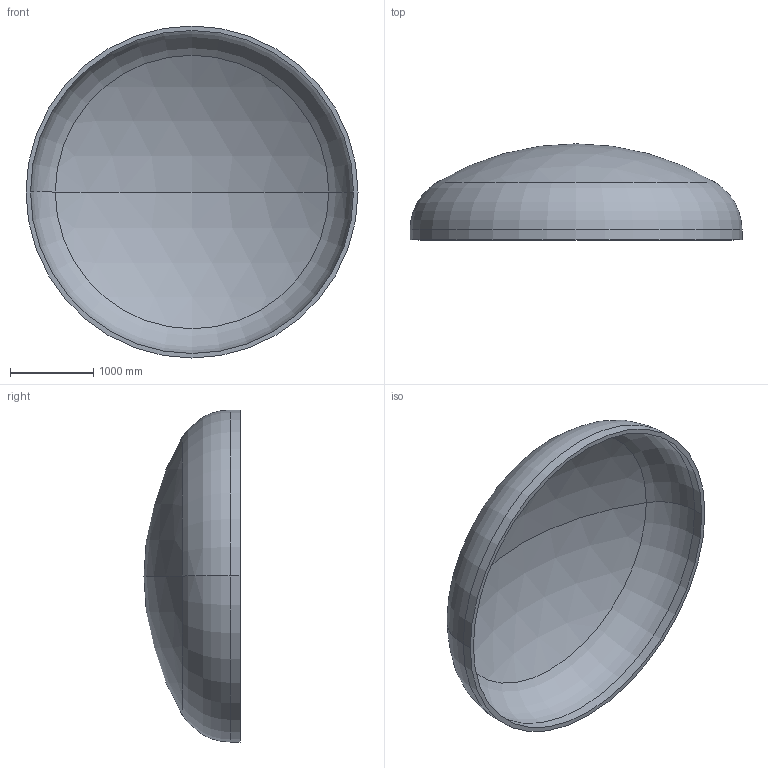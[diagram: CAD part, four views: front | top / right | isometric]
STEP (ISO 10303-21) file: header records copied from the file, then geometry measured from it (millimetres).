
FILE_DESCRIPTION (( 'STEP AP203' ), '1' );
FILE_NAME ('DIN 28013 Korbbogenform_-_Boden DIN 28013 - 4000 x 120 - I - s=54.step', '2016-07-01T22:31:23', ( '' ), ( '' ), 'SwSTEP 2.0', 'SolidWorks 2013', '' );
FILE_SCHEMA (( 'CONFIG_CONTROL_DESIGN' ));
Length unit declared in the file: millimetre
Products named in the file (1): DIN 28013 Korbbogenform_-_Boden DIN 28013 - 4000 x 120 - I - s=54
Bounding box: 4000 x 1158 x 4000 mm (x, y, z)
Volume: 1003246480.5 mm3; surface area: 37832793.9 mm2
Topology: 1 solids, 1 shells, 13 faces, 24 edges, 14 vertices
Faces by surface type: torus 4, cylinder 4, sphere 4, plane 1
Entity records: 407 total; most frequent: DIRECTION 72, CARTESIAN_POINT 52, ORIENTED_EDGE 48, AXIS2_PLACEMENT_3D 34, EDGE_CURVE 24, CIRCLE 20, EDGE_LOOP 14, VERTEX_POINT 14
